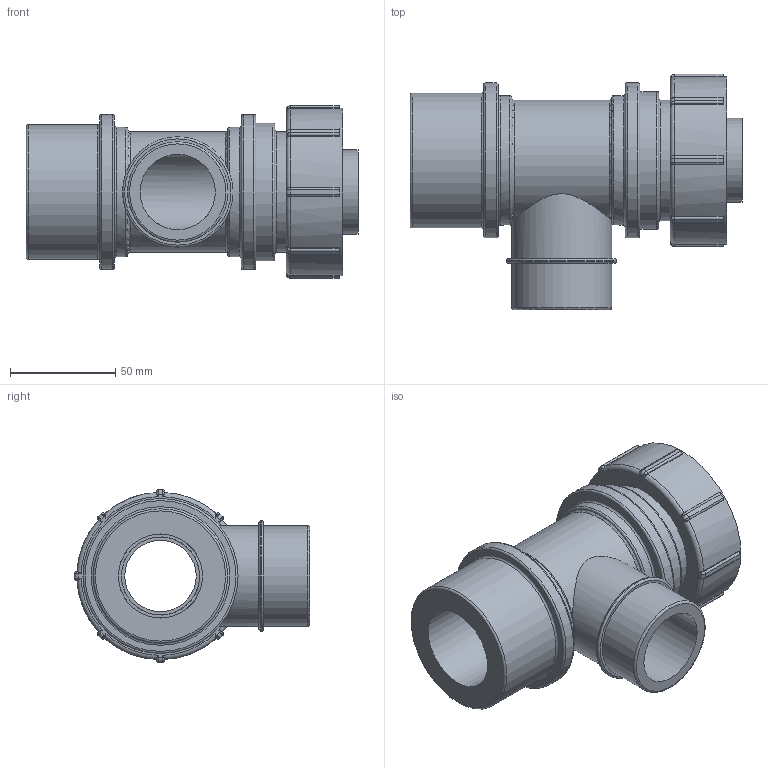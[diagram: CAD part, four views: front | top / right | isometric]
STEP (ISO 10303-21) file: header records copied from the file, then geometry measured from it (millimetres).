
FILE_DESCRIPTION(/* description */ ('PLASSON MODULAR MALE TEE 40-1.1/2"-40'),/* implementation_level */ '2;1');
FILE_NAME(/* name */ 'C:\Dropbox\KIMPROJECTS-Inventor\99-16-3568-Processing\Silver+MF ISRAEL\0784L6\0784L60400150A.ipt.stp',/* time_stamp */ '2018-04-09T13:01:19+03:00',/* author */ ('KIM'),/* organization */ (''),/* preprocessor_version */ 'ST-DEVELOPER v15.6',/* originating_system */ 'Autodesk Inventor 2015',/* authorisation */ '');
FILE_SCHEMA (('AUTOMOTIVE_DESIGN { 1 0 10303 214 3 1 1 }'));
Length unit declared in the file: millimetre
Products named in the file (1): 0784L60400150A
Bounding box: 158 x 112 x 82 mm (x, y, z)
Volume: 366365.9 mm3; surface area: 77475.8 mm2
Topology: 1 solids, 1 shells, 167 faces, 401 edges, 247 vertices
Faces by surface type: cylinder 60, plane 50, bspline 32, torus 25
Full cylindrical faces by diameter (mm): 34 x1, 35.852 x1, 37.2 x1, 40 x2, 47.803 x2, 52.583 x1, 57.4 x1, 61.5 x2, 64 x1, 65.6 x1, 69.7 x1, 73.8 x2, 75.44 x1, 79.54 x1
Entity records: 5242 total; most frequent: CARTESIAN_POINT 1623, DIRECTION 758, ORIENTED_EDGE 714, EDGE_CURVE 357, AXIS2_PLACEMENT_3D 324, VERTEX_POINT 237, EDGE_LOOP 216, CIRCLE 188
